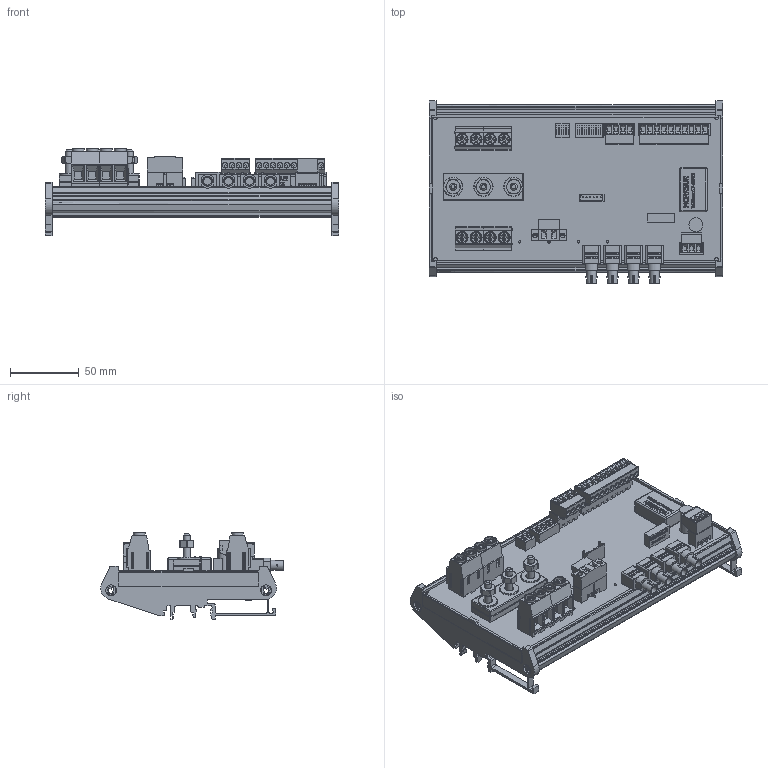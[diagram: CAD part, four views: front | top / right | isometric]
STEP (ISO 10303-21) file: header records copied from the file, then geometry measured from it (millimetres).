
FILE_DESCRIPTION(('FreeCAD Model'),'2;1');
FILE_NAME('C:/3D Files/Stringhe/ST2N/ST2N0840 DR/ST2N0840 DR.step', '2021-02-05T15:20:09',('Author'),(''), 'Open CASCADE STEP processor 7.2','FreeCAD','Unknown');
FILE_SCHEMA(('AUTOMOTIVE_DESIGN { 1 0 10303 214 1 1 1 1 }'));
Length unit declared in the file: millimetre
Products named in the file (37): ST2N0840_DR; AmpModu_6P_M; DipSwitch8; DipSwitch4; Stampato; Dado6MA004; Dado6MA005; Dado6MA006; Rondella007; Rondella008; Rondella009; CH_01-02; CH_03-04; CH_05-06; CH_07-08; CN3_M; Profilo_212.9x128; CN3_F; Mstb_4Pc_M; Mstb_4P_F; IB2405LS-1W; WRB2403ZP-6WR003; ELNA_470_uF_35_V; VTBSE-6x031; VTBSE-6x032; VTBSE-6x033; Barra_5.83_cm; Barra_5.83_cm001; Barra_5.83_cm002; Mstb_03P_F; Mstb_03Pc_M; Mstb_10P_F; Mstb_10Pc_M; HFBR-x41xTZ001; HFBR-x41xTZ002; HFBR-x41xTZ003; HFBR-x41xTZ004
Assembly tree (36 placements, depth 2):
  ST2N0840_DR
    AmpModu_6P_M
    DipSwitch8
    DipSwitch4
    Stampato
    Dado6MA004
    Dado6MA005
    Dado6MA006
    Rondella007
    Rondella008
    Rondella009
    CH_01-02
    CH_03-04
    CH_05-06
    CH_07-08
    CN3_M
    Profilo_212.9x128
    CN3_F
    Mstb_4Pc_M
    Mstb_4P_F
    IB2405LS-1W
    WRB2403ZP-6WR003
    ELNA_470_uF_35_V
    VTBSE-6x031
    VTBSE-6x032
    VTBSE-6x033
    Barra_5.83_cm
    Barra_5.83_cm001
    Barra_5.83_cm002
    Mstb_03P_F
    Mstb_03Pc_M
    Mstb_10P_F
    Mstb_10Pc_M
    HFBR-x41xTZ001
    HFBR-x41xTZ002
    HFBR-x41xTZ003
    HFBR-x41xTZ004
Bounding box: 212.9 x 132.5 x 63.19 mm (x, y, z)
Volume: 213755.8 mm3; surface area: 226324.6 mm2
Topology: 108 solids, 227 shells, 4332 faces, 15979 edges, 21814 vertices
Faces by surface type: plane 2875, bspline 739, cylinder 532, cone 109, sphere 40, torus 35, extrusion 2
Full cylindrical faces by diameter (mm): 0.5 x36, 0.75 x36, 1 x18, 1.6 x19, 1.8 x2, 2.05 x2, 2.5 x2, 3.3 x2, 3.5 x2, 3.8 x2, 4 x21, 4.917 x3, 5 x6, 5.6 x4, 6.6 x3, 7 x9, 7.1 x4, 7.2 x8, 7.5 x8, 8.66 x8, 10 x4, 14 x3
Entity records: 369162 total; most frequent: CARTESIAN_POINT 98756, DIRECTION 39079, VECTOR 26325, LINE 26323, ORIENTED_EDGE 23423, PCURVE 23423, DEFINITIONAL_REPRESENTATION 23423, EDGE_CURVE 12598
